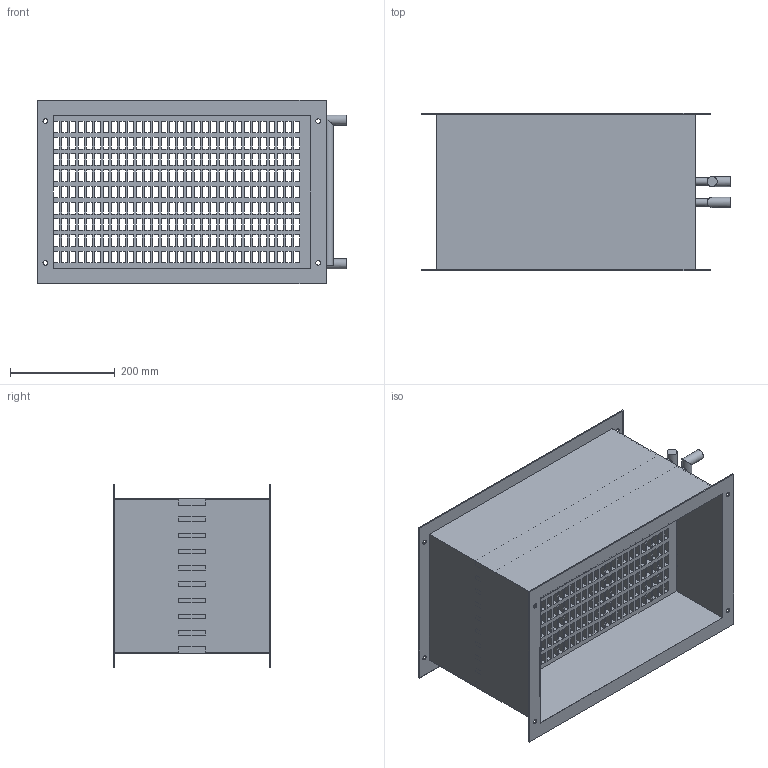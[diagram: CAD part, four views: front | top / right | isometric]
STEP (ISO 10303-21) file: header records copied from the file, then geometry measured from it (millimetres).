
FILE_DESCRIPTION(/* description */ (''),/* implementation_level */ '2;1');
FILE_NAME(/* name */ 'Z:\Output\WHR 2-50-25 -08784-003.stp',/* time_stamp */ '2017-05-05T18:44:22+02:00',/* author */ ('jayeshpanchal'),/* organization */ (''),/* preprocessor_version */ 'ST-DEVELOPER v16.5',/* originating_system */ 'Autodesk Inventor 2017',/* authorisation */ '');
FILE_SCHEMA (('AUTOMOTIVE_DESIGN { 1 0 10303 214 3 1 1 }'));
Length unit declared in the file: millimetre
Products named in the file (1): WHRK-1
Bounding box: 589 x 300 x 350 mm (x, y, z)
Volume: 5059134.6 mm3; surface area: 2169011.4 mm2
Topology: 1 solids, 1 shells, 1166 faces, 3502 edges, 2336 vertices
Faces by surface type: plane 1136, cylinder 30
Full cylindrical faces by diameter (mm): 9 x8, 14.05 x18, 19.05 x4
Entity records: 39850 total; most frequent: CARTESIAN_POINT 7399, ORIENTED_EDGE 6900, DIRECTION 5826, EDGE_CURVE 3450, LINE 3336, VECTOR 3336, VERTEX_POINT 2314, EDGE_LOOP 1782
